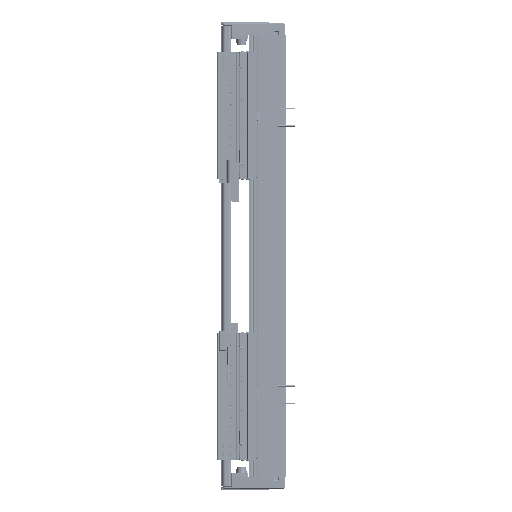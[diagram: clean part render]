
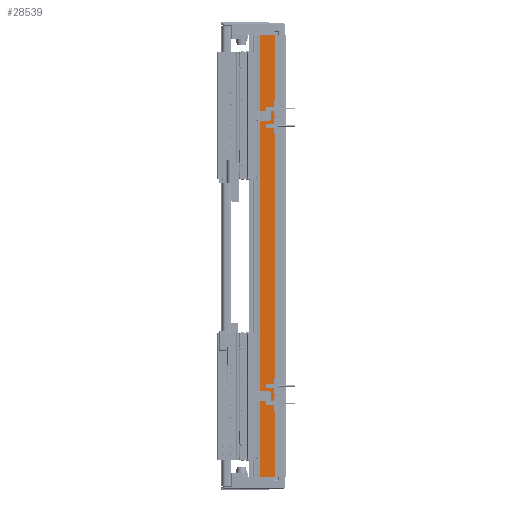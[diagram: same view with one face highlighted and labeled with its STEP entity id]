
A CAD part, left-side view. The second image highlights one B-rep face of the part: STEP entity #28539.
In plain terms, the highlighted planar face has unit normal (-1, 0, 0).
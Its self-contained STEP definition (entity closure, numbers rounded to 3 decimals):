
#38 = LINE ( 'NONE', #9673, #145738 ) ;
#1146 = CARTESIAN_POINT ( 'NONE',  ( -97.5, 36.95, 330. ) ) ;
#5348 = CARTESIAN_POINT ( 'NONE',  ( -97.5, 36.95, -330. ) ) ;
#7686 = DIRECTION ( 'NONE',  ( 0., -1., 0. ) ) ;
#9150 = VECTOR ( 'NONE', #7686, 1000. ) ;
#9673 = CARTESIAN_POINT ( 'NONE',  ( -97.5, 14.45, 330. ) ) ;
#11021 = CARTESIAN_POINT ( 'NONE',  ( -97.5, 14.45, 330. ) ) ;
#15323 = VERTEX_POINT ( 'NONE', #1146 ) ;
#19228 = VERTEX_POINT ( 'NONE', #11021 ) ;
#20246 = EDGE_CURVE ( 'NONE', #136553, #68680, #61525, .T. ) ;
#22388 = CARTESIAN_POINT ( 'NONE',  ( -97.5, 36.95, 330. ) ) ;
#25171 = ORIENTED_EDGE ( 'NONE', *, *, #86060, .F. ) ;
#25689 = CARTESIAN_POINT ( 'NONE',  ( -97.5, 36.95, 330. ) ) ;
#28539 = ADVANCED_FACE ( 'NONE', ( #82864 ), #38537, .F. ) ;
#36066 = LINE ( 'NONE', #25689, #130673 ) ;
#36465 = EDGE_LOOP ( 'NONE', ( #88570, #25171, #130904, #144586 ) ) ;
#38537 = PLANE ( 'NONE',  #89348 ) ;
#45121 = CARTESIAN_POINT ( 'NONE',  ( -97.5, 36.95, -330. ) ) ;
#61525 = LINE ( 'NONE', #5348, #131222 ) ;
#68680 = VERTEX_POINT ( 'NONE', #146063 ) ;
#78398 = DIRECTION ( 'NONE',  ( 0., 0., -1. ) ) ;
#81148 = DIRECTION ( 'NONE',  ( 0., 0., -1. ) ) ;
#82864 = FACE_OUTER_BOUND ( 'NONE', #36465, .T. ) ;
#86060 = EDGE_CURVE ( 'NONE', #19228, #68680, #38, .T. ) ;
#88570 = ORIENTED_EDGE ( 'NONE', *, *, #20246, .T. ) ;
#89348 = AXIS2_PLACEMENT_3D ( 'NONE', #117585, #118318, #111563 ) ;
#107796 = EDGE_CURVE ( 'NONE', #15323, #136553, #36066, .T. ) ;
#111563 = DIRECTION ( 'NONE',  ( 0., 1., 0. ) ) ;
#117585 = CARTESIAN_POINT ( 'NONE',  ( -97.5, 36.95, 330. ) ) ;
#118318 = DIRECTION ( 'NONE',  ( 1., 0., 0. ) ) ;
#130673 = VECTOR ( 'NONE', #81148, 1000. ) ;
#130904 = ORIENTED_EDGE ( 'NONE', *, *, #139961, .F. ) ;
#131222 = VECTOR ( 'NONE', #140598, 1000. ) ;
#136553 = VERTEX_POINT ( 'NONE', #45121 ) ;
#139961 = EDGE_CURVE ( 'NONE', #15323, #19228, #144367, .T. ) ;
#140598 = DIRECTION ( 'NONE',  ( 0., -1., 0. ) ) ;
#144367 = LINE ( 'NONE', #22388, #9150 ) ;
#144586 = ORIENTED_EDGE ( 'NONE', *, *, #107796, .T. ) ;
#145738 = VECTOR ( 'NONE', #78398, 1000. ) ;
#146063 = CARTESIAN_POINT ( 'NONE',  ( -97.5, 14.45, -330. ) ) ;
